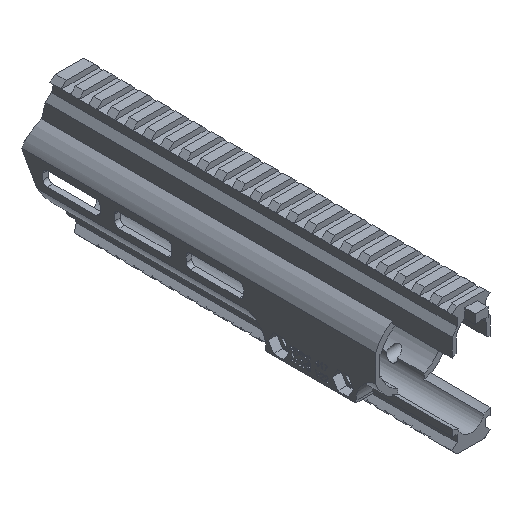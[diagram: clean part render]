
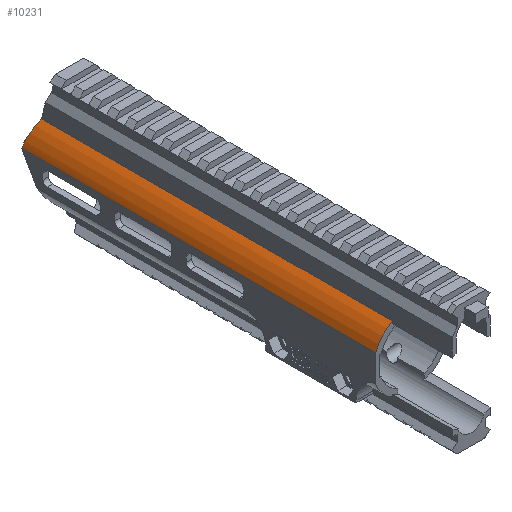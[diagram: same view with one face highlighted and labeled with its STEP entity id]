
A CAD part, isometric view. The second image highlights one B-rep face of the part: STEP entity #10231.
In plain terms, the highlighted cylindrical face has radius 21.169 mm (diameter 42.338 mm), a partial arc.
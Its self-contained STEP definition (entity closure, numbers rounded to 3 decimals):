
#130=B_SPLINE_CURVE_WITH_KNOTS('',3,(#14842,#14843,#14844,#14845),
 .UNSPECIFIED.,.F.,.F.,(4,4),(1.386,1.405),
 .UNSPECIFIED.);
#132=B_SPLINE_CURVE_WITH_KNOTS('',3,(#14866,#14867,#14868,#14869),
 .UNSPECIFIED.,.F.,.F.,(4,4),(1.445,1.519),
 .UNSPECIFIED.);
#253=ELLIPSE('',#10741,21.711,21.169);
#277=CYLINDRICAL_SURFACE('',#10828,21.169);
#369=CIRCLE('',#10829,21.169);
#370=CIRCLE('',#10830,21.169);
#533=FACE_OUTER_BOUND('',#1064,.T.);
#1064=EDGE_LOOP('',(#7399,#7400,#7401,#7402,#7403,#7404,#7405));
#1946=LINE('',#14861,#3228);
#1947=LINE('',#14864,#3229);
#3228=VECTOR('',#12035,10.);
#3229=VECTOR('',#12038,10.);
#4323=VERTEX_POINT('',#14352);
#4324=VERTEX_POINT('',#14354);
#4475=VERTEX_POINT('',#14840);
#4476=VERTEX_POINT('',#14841);
#4479=VERTEX_POINT('',#14860);
#4480=VERTEX_POINT('',#14862);
#4481=VERTEX_POINT('',#14865);
#5424=EDGE_CURVE('',#4323,#4324,#253,.T.);
#5602=EDGE_CURVE('',#4475,#4476,#130,.T.);
#5608=EDGE_CURVE('',#4479,#4475,#1946,.T.);
#5609=EDGE_CURVE('',#4480,#4479,#369,.T.);
#5610=EDGE_CURVE('',#4324,#4480,#1947,.T.);
#5611=EDGE_CURVE('',#4481,#4323,#132,.T.);
#5612=EDGE_CURVE('',#4476,#4481,#370,.T.);
#7399=ORIENTED_EDGE('',*,*,#5602,.F.);
#7400=ORIENTED_EDGE('',*,*,#5608,.F.);
#7401=ORIENTED_EDGE('',*,*,#5609,.F.);
#7402=ORIENTED_EDGE('',*,*,#5610,.F.);
#7403=ORIENTED_EDGE('',*,*,#5424,.F.);
#7404=ORIENTED_EDGE('',*,*,#5611,.F.);
#7405=ORIENTED_EDGE('',*,*,#5612,.F.);
#10231=ADVANCED_FACE('',(#533),#277,.T.);
#10741=AXIS2_PLACEMENT_3D('',#14355,#11738,#11739);
#10828=AXIS2_PLACEMENT_3D('',#14859,#12033,#12034);
#10829=AXIS2_PLACEMENT_3D('',#14863,#12036,#12037);
#10830=AXIS2_PLACEMENT_3D('',#14870,#12039,#12040);
#11738=DIRECTION('center_axis',(0.,0.975,0.222));
#11739=DIRECTION('ref_axis',(0.,-0.222,0.975));
#12033=DIRECTION('center_axis',(0.,1.,0.));
#12034=DIRECTION('ref_axis',(0.933,0.,0.36));
#12035=DIRECTION('',(0.,1.,0.));
#12036=DIRECTION('center_axis',(0.,-1.,0.));
#12037=DIRECTION('ref_axis',(0.933,0.,0.36));
#12038=DIRECTION('',(0.,-1.,0.));
#12039=DIRECTION('center_axis',(0.,1.,0.));
#12040=DIRECTION('ref_axis',(0.933,0.,0.36));
#14352=CARTESIAN_POINT('',(-81.276,-30.564,41.17));
#14354=CARTESIAN_POINT('',(-73.579,-32.307,48.823));
#14355=CARTESIAN_POINT('Origin',(-63.,-28.131,30.487));
#14840=CARTESIAN_POINT('',(-82.75,-30.494,38.107));
#14841=CARTESIAN_POINT('',(-82.679,-30.489,38.289));
#14842=CARTESIAN_POINT('Ctrl Pts',(-82.75,-30.494,
38.107));
#14843=CARTESIAN_POINT('Ctrl Pts',(-82.726,-30.491,
38.168));
#14844=CARTESIAN_POINT('Ctrl Pts',(-82.703,-30.489,
38.229));
#14845=CARTESIAN_POINT('Ctrl Pts',(-82.679,-30.489,
38.289));
#14859=CARTESIAN_POINT('Origin',(-63.,-227.989,30.487));
#14860=CARTESIAN_POINT('',(-82.75,-227.989,38.107));
#14861=CARTESIAN_POINT('',(-82.75,-227.989,38.107));
#14862=CARTESIAN_POINT('',(-73.579,-227.989,48.823));
#14863=CARTESIAN_POINT('Origin',(-63.,-227.989,30.487));
#14864=CARTESIAN_POINT('',(-73.579,-227.989,48.823));
#14865=CARTESIAN_POINT('',(-81.649,-30.489,40.504));
#14866=CARTESIAN_POINT('Ctrl Pts',(-81.649,-30.489,
40.504));
#14867=CARTESIAN_POINT('Ctrl Pts',(-81.532,-30.489,
40.722));
#14868=CARTESIAN_POINT('Ctrl Pts',(-81.406,-30.513,40.948));
#14869=CARTESIAN_POINT('Ctrl Pts',(-81.276,-30.564,
41.17));
#14870=CARTESIAN_POINT('Origin',(-63.,-30.489,30.487));
